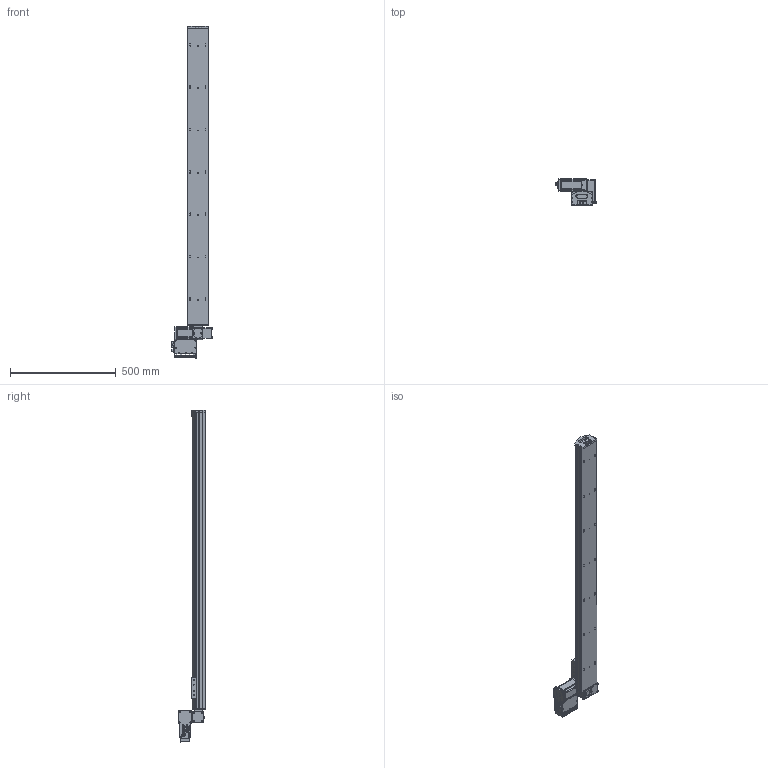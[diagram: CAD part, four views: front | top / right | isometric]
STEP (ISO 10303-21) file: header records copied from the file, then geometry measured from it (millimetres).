
FILE_DESCRIPTION (( 'STEP AP203' ), '1' );
FILE_NAME ('S10 TBN LT S1400.STEP', '2012-06-19T12:58:17', ( 'Conseil Régional Haute-Normandie' ), ( 'Conseil Régional Haute-Normandie' ), 'SwSTEP 2.0', 'SolidWorks 2010', '' );
FILE_SCHEMA (( 'CONFIG_CONTROL_DESIGN' ));
Length unit declared in the file: millimetre
Products named in the file (28): cache t皻e_Default; Colonnette_3; T_X2_00F4_X0_le contre le moteur_5; BU41 Carte Alimentation P05_3; Connecteur rond D10 3cts_5; Connecteur rond D12 4cts_5; T_X2_00F4_X0_le lat_X2_00E9_X0_rale_5; Vis TF 3 torkx_1_1; vis M5 L12_Default; embout; S10 TBN LT S1400; cache t皻e axe_Default; plaque de bout s10_Default; Plaque racord_Default; renvoi LH_Default; Assem1_7; BU45 Carte d''axe A11_5; Moteur 60BLDC90A_3; Couvercle_3; T_X2_00F4_X0_le fond_3; Sub D 9cts 90_X2_00B_X0__3; Radiateur profil_X2_00E9_X0_ 100x25_3; Colonnette ronde_3; T_X2_00F4_X0_le Arri_X2_00E8_X0_re_5; vis M5 L5_Default; Cvis M5 L30_Default; palette tbn; axe 1400
Assembly tree (58 placements, depth 3):
  S10 TBN LT S1400
    cache t皻e_Default  x2
    plaque de bout s10_Default
    Cvis M5 L30_Default  x2
    axe 1400
    vis M5 L5_Default  x4
    Assem1_7
      Couvercle_3
      Vis TF 3 torkx_1_1  x21
      T_X2_00F4_X0_le fond_3
      BU45 Carte d''axe A11_5
      Connecteur rond D12 4cts_5
      Colonnette_3  x2
      Sub D 9cts 90_X2_00B_X0__3
      T_X2_00F4_X0_le contre le moteur_5
      Moteur 60BLDC90A_3
      T_X2_00F4_X0_le lat_X2_00E9_X0_rale_5  x2
      Connecteur rond D10 3cts_5  x2
      Colonnette ronde_3
      BU41 Carte Alimentation P05_3
      Radiateur profil_X2_00E9_X0_ 100x25_3
      T_X2_00F4_X0_le Arri_X2_00E8_X0_re_5
    Plaque racord_Default
    vis M5 L12_Default  x4
    renvoi LH_Default
    embout
    cache t皻e axe_Default
    palette tbn
Bounding box: 189.8 x 127 x 1566.5 mm (x, y, z)
Volume: 8135132.3 mm3; surface area: 989226.9 mm2
Topology: 57 solids, 57 shells, 2218 faces, 5536 edges, 3575 vertices
Faces by surface type: plane 1037, cylinder 972, cone 174, bspline 32, torus 3
Entity records: 47230 total; most frequent: CARTESIAN_POINT 8531, DIRECTION 7649, ORIENTED_EDGE 6952, EDGE_CURVE 3476, AXIS2_PLACEMENT_3D 2842, VERTEX_POINT 2269, VECTOR 1965, LINE 1965
